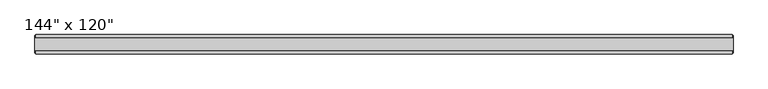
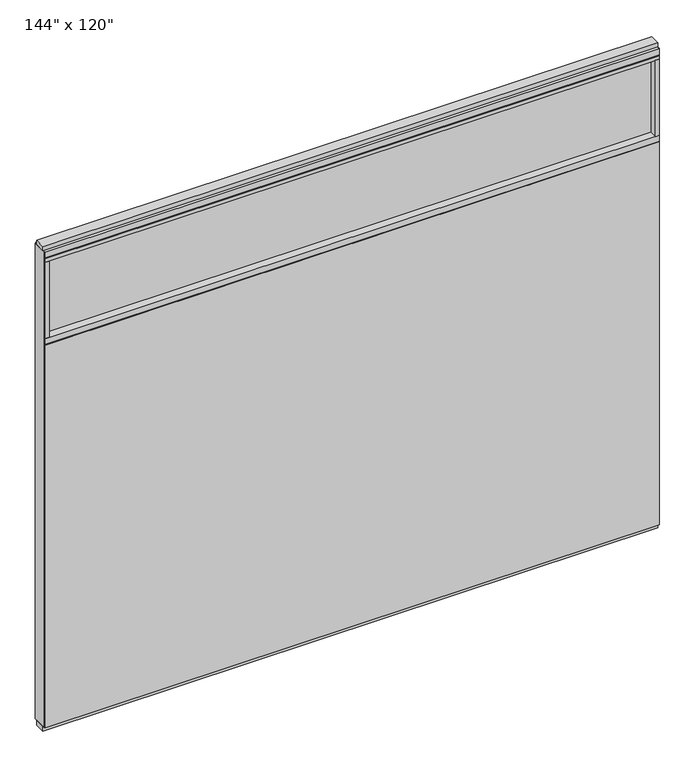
"""IFC4 building model written with IfcOpenShell, lengths in millimetres: furniture geometry."""

from ifc_helpers import new_model, si_unit, frame, origin, origin_with_axes, place, context, project, spatial, polyline, outline, extrude, source, transform, mapped, element, save


def furniture_37175b4b(model_context):
    return source(origin(), model_context, "Body", "SweptSolid", [
        extrude(outline(polyline([(1764.8264771, -46.2822784), (-1884.8995229, -46.2822784), (-1884.8995229, -33.5822784), (1764.8264771, -33.5822784), (1764.8264771, -46.2822784)])), frame((0.0, 0.0, 31.75), z_axis=(0.0, 0.0, 1.0), x_axis=(1.0, 0.0, 0.0)), (0.0, 0.0, 1.0), 2406.65),
        extrude(outline(polyline([(1764.8264771, 55.3177216), (1764.8264771, 42.6177216), (-1884.8995229, 42.6177216), (-1884.8995229, 55.3177216), (1764.8264771, 55.3177216)])), frame((0.0, 0.0, 31.75), z_axis=(0.0, 0.0, 1.0), x_axis=(1.0, 0.0, 0.0)), (0.0, 0.0, 1.0), 2406.65),
        extrude(outline(polyline([(1742.6014771, 9.5977216), (1742.6014771, -0.5622784), (-1862.6745229, -0.5622784), (-1862.6745229, 9.5977216), (1742.6014771, 9.5977216)])), frame((0.0, 0.0, 2479.675), z_axis=(0.0, 0.0, 1.0), x_axis=(1.0, 0.0, 0.0)), (0.0, 0.0, 1.0), 479.425),
        extrude(outline(polyline([(1742.6014771, 55.3177216), (1764.8264771, 55.3177216), (1764.8264771, -46.2822784), (1742.6014771, -46.2822784), (1742.6014771, 55.3177216)])), frame((0.0, 0.0, 2479.675), z_axis=(0.0, 0.0, 1.0), x_axis=(1.0, 0.0, 0.0)), (0.0, 0.0, 1.0), 479.425),
        extrude(outline(polyline([(55.3177216, 2443.353), (50.3647216, 2443.353), (50.3647216, 2438.4), (-41.3292784, 2438.4), (-41.3292784, 2443.353), (-46.2822784, 2443.353), (-46.2822784, 2479.675), (55.3177216, 2479.675), (55.3177216, 2443.353)])), frame((-1884.8995229, 0.0, 0.0), z_axis=(1.0, 0.0, 0.0), x_axis=(0.0, 1.0, 0.0)), (0.0, 0.0, 1.0), 3649.726),
        extrude(outline(polyline([(-1862.6745229, 55.3177216), (-1862.6745229, -46.2822784), (-1884.8995229, -46.2822784), (-1884.8995229, 55.3177216), (-1862.6745229, 55.3177216)])), frame((0.0, 0.0, 2479.675), z_axis=(0.0, 0.0, 1.0), x_axis=(1.0, 0.0, 0.0)), (0.0, 0.0, 1.0), 479.425),
        extrude(outline(polyline([(1768.7634771, -27.9942784), (-1888.8365229, -27.9942784), (-1888.8365229, 37.0297216), (1768.7634771, 37.0297216), (1768.7634771, -27.9942784)])), origin_with_axes(), (0.0, 0.0, 1.0), 31.75),
        extrude(outline(polyline([(-1888.8365229, 37.0297216), (1768.7634771, 37.0297216), (1768.7634771, -27.9942784), (-1888.8365229, -27.9942784), (-1888.8365229, 37.0297216)])), frame((0.0, 0.0, 3022.6), z_axis=(0.0, 0.0, 1.0), x_axis=(1.0, 0.0, 0.0)), (0.0, 0.0, 1.0), 25.4),
        extrude(outline(polyline([(55.3177216, 2986.278), (50.3647216, 2986.278), (50.3647216, 2981.325), (-41.3292784, 2981.325), (-41.3292784, 2986.278), (-46.2822784, 2986.278), (-46.2822784, 3022.6), (55.3177216, 3022.6), (55.3177216, 2986.278)])), frame((-1884.8995229, 0.0, 0.0), z_axis=(1.0, 0.0, 0.0), x_axis=(0.0, 1.0, 0.0)), (0.0, 0.0, 1.0), 3649.726),
        extrude(outline(polyline([(1764.8264771, -46.2822784), (-1884.8995229, -46.2822784), (-1884.8995229, 55.3177216), (1764.8264771, 55.3177216), (1764.8264771, -46.2822784)])), frame((0.0, 0.0, 2959.1), z_axis=(0.0, 0.0, 1.0), x_axis=(1.0, 0.0, 0.0)), (0.0, 0.0, 1.0), 22.225),
        extrude(outline(polyline([(1768.7634771, 50.3647216), (1768.7634771, -41.3292784), (1764.8264771, -41.3292784), (1764.8264771, 50.3647216), (1768.7634771, 50.3647216)])), frame((0.0, 0.0, 31.75), z_axis=(0.0, 0.0, 1.0), x_axis=(1.0, 0.0, 0.0)), (0.0, 0.0, 1.0), 2990.85),
        extrude(outline(polyline([(-1888.8365229, 50.3647216), (-1884.8995229, 50.3647216), (-1884.8995229, -41.3292784), (-1888.8365229, -41.3292784), (-1888.8365229, 50.3647216)])), frame((0.0, 0.0, 31.75), z_axis=(0.0, 0.0, 1.0), x_axis=(1.0, 0.0, 0.0)), (0.0, 0.0, 1.0), 2990.85),
    ])


if __name__ == "__main__":
    model = new_model("IFC4")
    model_context = context("Model", 3, world=origin())
    ifc_project = project(units=[si_unit("LENGTHUNIT", "METRE", prefix="MILLI")], contexts=[model_context])
    site = spatial("IfcSite", under=ifc_project)
    building = spatial("IfcBuilding", under=site)
    placement = place(None, origin())
    furniture_shape = furniture_37175b4b(model_context)
    element("IfcFurniture", 1, ObjectType="Haworth_Enclose_Wall_SolidTransom : 144\" x 120\"", at=placement, inside=building, context=model_context, shape_type="MappedRepresentation", body=[
        mapped(furniture_shape, transform((0.0, 0.0, 0.0), x_axis=(1.0, 0.0, 0.0), y_axis=(0.0, 1.0, 0.0), z_axis=(0.0, 0.0, 1.0))),
    ])
    save(model, "model.ifc")
